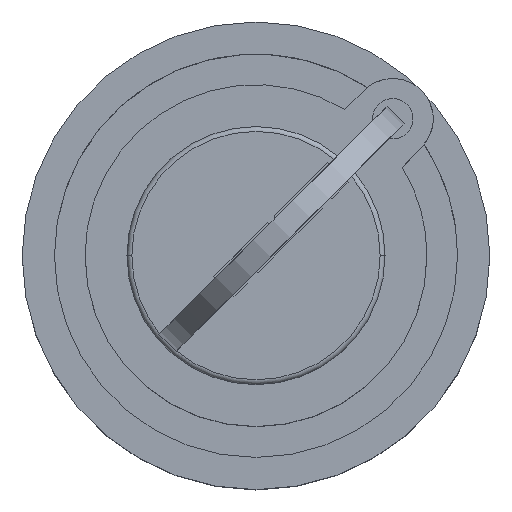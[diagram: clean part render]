
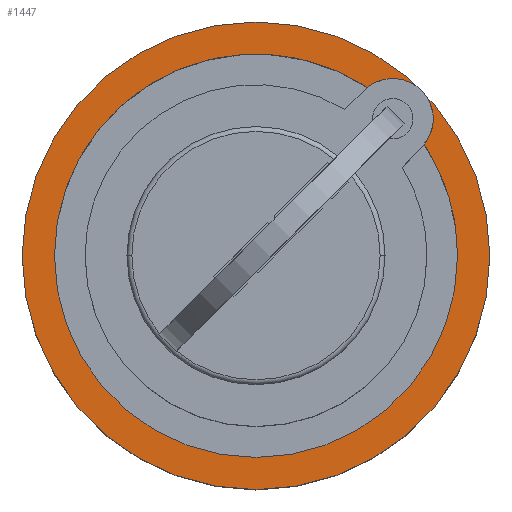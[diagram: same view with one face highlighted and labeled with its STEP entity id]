
A CAD part, top view. The second image highlights one B-rep face of the part: STEP entity #1447.
In plain terms, the highlighted planar face has unit normal (0, 0, 1).
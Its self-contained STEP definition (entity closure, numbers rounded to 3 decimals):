
#233 = CIRCLE ( 'NONE', #4394, 14.5 ) ;
#398 = CARTESIAN_POINT ( 'NONE',  ( -12.5, 0., 11.5 ) ) ;
#446 = ORIENTED_EDGE ( 'NONE', *, *, #640, .F. ) ;
#466 = DIRECTION ( 'NONE',  ( 0., 0., 1. ) ) ;
#520 = FACE_BOUND ( 'NONE', #2497, .T. ) ;
#532 = AXIS2_PLACEMENT_3D ( 'NONE', #3844, #1380, #4256 ) ;
#625 = CIRCLE ( 'NONE', #532, 14.5 ) ;
#640 = EDGE_CURVE ( 'NONE', #1576, #3405, #1194, .T. ) ;
#815 = ORIENTED_EDGE ( 'NONE', *, *, #4961, .T. ) ;
#1067 = EDGE_LOOP ( 'NONE', ( #4851, #815 ) ) ;
#1194 = CIRCLE ( 'NONE', #2473, 12.5 ) ;
#1380 = DIRECTION ( 'NONE',  ( 0., 0., 1. ) ) ;
#1447 = ADVANCED_FACE ( 'NONE', ( #1651, #520 ), #1624, .T. ) ;
#1555 = DIRECTION ( 'NONE',  ( 0., 0., 1. ) ) ;
#1576 = VERTEX_POINT ( 'NONE', #3262 ) ;
#1624 = PLANE ( 'NONE',  #4311 ) ;
#1651 = FACE_OUTER_BOUND ( 'NONE', #1067, .T. ) ;
#1983 = DIRECTION ( 'NONE',  ( 0., 0., 1. ) ) ;
#2029 = CARTESIAN_POINT ( 'NONE',  ( 0., 0., 11.5 ) ) ;
#2173 = VERTEX_POINT ( 'NONE', #5293 ) ;
#2435 = ORIENTED_EDGE ( 'NONE', *, *, #3790, .F. ) ;
#2442 = DIRECTION ( 'NONE',  ( 1., 0., 0. ) ) ;
#2473 = AXIS2_PLACEMENT_3D ( 'NONE', #2029, #4882, #2442 ) ;
#2497 = EDGE_LOOP ( 'NONE', ( #2435, #446 ) ) ;
#2809 = CARTESIAN_POINT ( 'NONE',  ( 14.5, 0., 11.5 ) ) ;
#2929 = AXIS2_PLACEMENT_3D ( 'NONE', #2963, #466, #3360 ) ;
#2963 = CARTESIAN_POINT ( 'NONE',  ( 0., 0., 11.5 ) ) ;
#3262 = CARTESIAN_POINT ( 'NONE',  ( 12.5, 0., 11.5 ) ) ;
#3360 = DIRECTION ( 'NONE',  ( 1., 0., 0. ) ) ;
#3405 = VERTEX_POINT ( 'NONE', #398 ) ;
#3790 = EDGE_CURVE ( 'NONE', #3405, #1576, #5178, .T. ) ;
#3844 = CARTESIAN_POINT ( 'NONE',  ( 0., 0., 11.5 ) ) ;
#4002 = CARTESIAN_POINT ( 'NONE',  ( 0., 0., 11.5 ) ) ;
#4256 = DIRECTION ( 'NONE',  ( 1., 0., 0. ) ) ;
#4311 = AXIS2_PLACEMENT_3D ( 'NONE', #4430, #1983, #4836 ) ;
#4394 = AXIS2_PLACEMENT_3D ( 'NONE', #4002, #1555, #4422 ) ;
#4422 = DIRECTION ( 'NONE',  ( 1., 0., 0. ) ) ;
#4430 = CARTESIAN_POINT ( 'NONE',  ( 0., 0., 11.5 ) ) ;
#4729 = EDGE_CURVE ( 'NONE', #2173, #4998, #625, .T. ) ;
#4836 = DIRECTION ( 'NONE',  ( 1., 0., 0. ) ) ;
#4851 = ORIENTED_EDGE ( 'NONE', *, *, #4729, .T. ) ;
#4882 = DIRECTION ( 'NONE',  ( 0., 0., 1. ) ) ;
#4961 = EDGE_CURVE ( 'NONE', #4998, #2173, #233, .T. ) ;
#4998 = VERTEX_POINT ( 'NONE', #2809 ) ;
#5178 = CIRCLE ( 'NONE', #2929, 12.5 ) ;
#5293 = CARTESIAN_POINT ( 'NONE',  ( -14.5, 0., 11.5 ) ) ;
